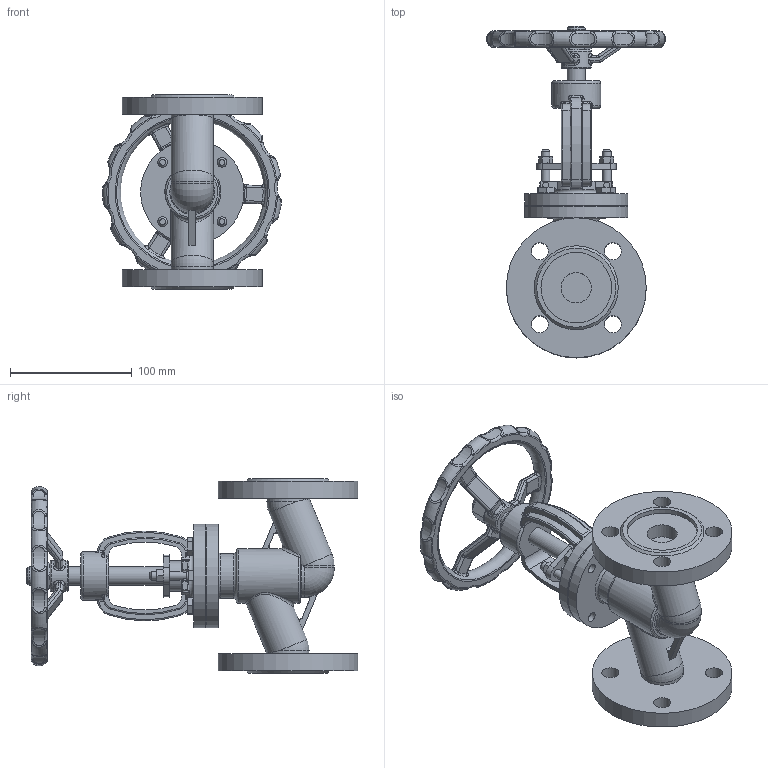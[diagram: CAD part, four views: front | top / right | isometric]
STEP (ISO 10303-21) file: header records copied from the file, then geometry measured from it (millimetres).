
FILE_DESCRIPTION(('STEP AP203'), '1');
FILE_NAME('VSO3131M-F-S 孰囡囗 玎镱痦 DN.ru 捏25 畜40', '2026-04-11T10:43:22', ('R2D2'), (''), 'C3D Converter', 'C3D Toolkit', '');
FILE_SCHEMA(('CONFIG_CONTROL_DESIGN'));
Length unit declared in the file: millimetre
Products named in the file (1): VSO3131M-F-S
Bounding box: 147.12 x 272.75 x 160 mm (x, y, z)
Volume: 768891.3 mm3; surface area: 148724.8 mm2
Topology: 1 solids, 1 shells, 976 faces, 2376 edges, 1428 vertices
Faces by surface type: plane 294, cylinder 202, torus 141, extrusion 123, bspline 81, cone 71, sphere 64
Full cylindrical faces by diameter (mm): 5 x8, 7 x4, 8 x6, 13 x4, 14 x8, 15 x3, 18 x1, 25 x4, 35 x5, 37 x1, 40 x1, 45 x1, 58 x2, 85 x2, 115 x2
Entity records: 65354 total; most frequent: CARTESIAN_POINT 36312, ORIENTED_EDGE 4522, DIRECTION 4006, EDGE_CURVE 2261, AXIS2_PLACEMENT_3D 1592, VERTEX_POINT 1415, EDGE_LOOP 1136, FACE_BOUND 1029
